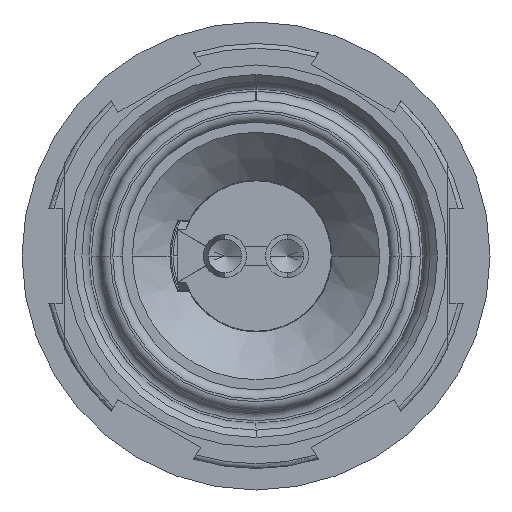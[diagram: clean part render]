
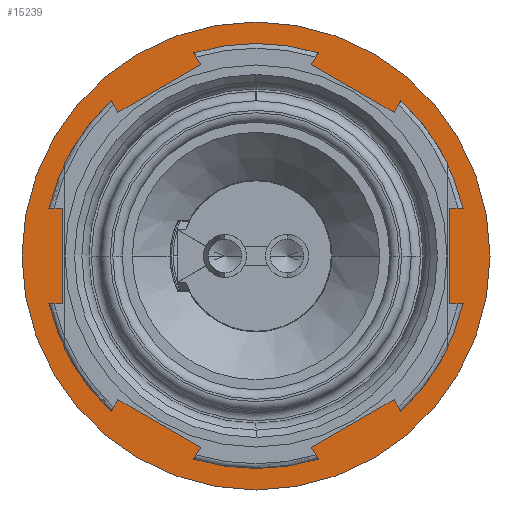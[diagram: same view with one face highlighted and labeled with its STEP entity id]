
A CAD part, left-side view. The second image highlights one B-rep face of the part: STEP entity #15239.
In plain terms, the highlighted planar face has unit normal (-1, 0, 0).
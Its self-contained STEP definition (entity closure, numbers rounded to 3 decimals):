
#1805=CARTESIAN_POINT('',(-5.5,0.,0.));
#1806=DIRECTION('',(1.,0.,0.));
#1807=DIRECTION('',(0.,-1.,0.));
#1808=AXIS2_PLACEMENT_3D('',#1805,#1806,#1807);
#1810=CARTESIAN_POINT('',(-5.5,0.,0.));
#1811=DIRECTION('',(1.,0.,0.));
#1812=DIRECTION('',(0.,1.,0.));
#1813=AXIS2_PLACEMENT_3D('',#1810,#1811,#1812);
#1815=CARTESIAN_POINT('',(-5.5,0.,0.));
#1816=DIRECTION('',(-1.,0.,0.));
#1817=DIRECTION('',(0.,-1.,0.));
#1818=AXIS2_PLACEMENT_3D('',#1815,#1816,#1817);
#1820=CARTESIAN_POINT('',(-5.5,0.,0.));
#1821=DIRECTION('',(-1.,0.,0.));
#1822=DIRECTION('',(0.,1.,0.));
#1823=AXIS2_PLACEMENT_3D('',#1820,#1821,#1822);
#9205=CARTESIAN_POINT('',(-5.5,4.9,0.));
#9206=VERTEX_POINT('',#9205);
#9207=CARTESIAN_POINT('',(-5.5,-4.9,0.));
#9208=VERTEX_POINT('',#9207);
#9211=CARTESIAN_POINT('',(-5.5,-3.6,0.));
#9212=CARTESIAN_POINT('',(-5.5,3.6,0.));
#9213=VERTEX_POINT('',#9211);
#9214=VERTEX_POINT('',#9212);
#15224=CARTESIAN_POINT('',(-5.5,0.,0.));
#15225=DIRECTION('',(1.,0.,0.));
#15226=DIRECTION('',(0.,-1.,0.));
#15227=AXIS2_PLACEMENT_3D('',#15224,#15225,#15226);
#15228=PLANE('',#15227);
#15229=ORIENTED_EDGE('',*,*,#15166,.T.);
#15230=ORIENTED_EDGE('',*,*,#15190,.T.);
#15231=EDGE_LOOP('',(#15229,#15230));
#15232=FACE_OUTER_BOUND('',#15231,.F.);
#15234=ORIENTED_EDGE('',*,*,#15233,.T.);
#15236=ORIENTED_EDGE('',*,*,#15235,.T.);
#15237=EDGE_LOOP('',(#15234,#15236));
#15238=FACE_BOUND('',#15237,.F.);
#1809=CIRCLE('',#1808,4.9);
#1814=CIRCLE('',#1813,4.9);
#1819=CIRCLE('',#1818,3.6);
#1824=CIRCLE('',#1823,3.6);
#15166=EDGE_CURVE('',#9208,#9206,#1809,.T.);
#15190=EDGE_CURVE('',#9206,#9208,#1814,.T.);
#15233=EDGE_CURVE('',#9213,#9214,#1819,.T.);
#15235=EDGE_CURVE('',#9214,#9213,#1824,.T.);
#15239=ADVANCED_FACE('',(#15232,#15238),#15228,.F.);
